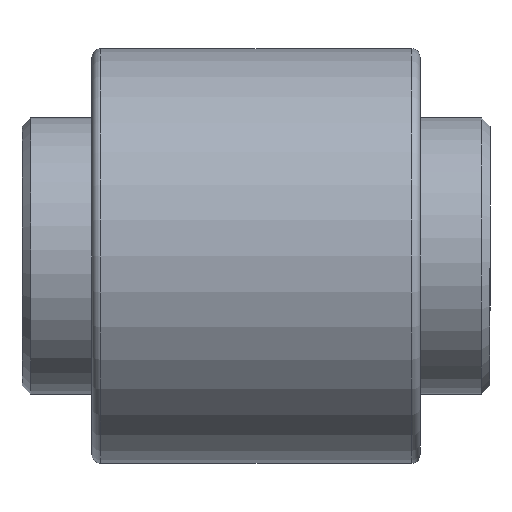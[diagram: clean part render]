
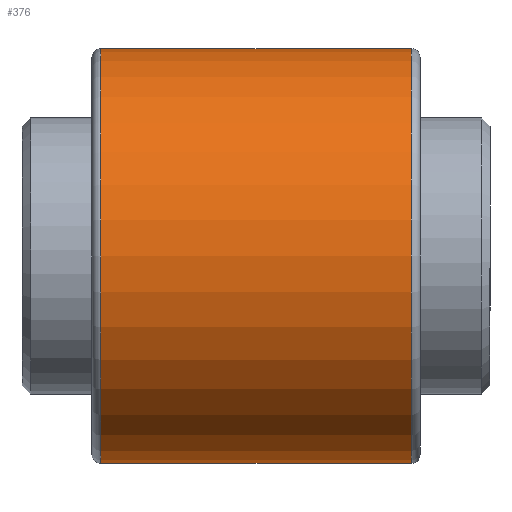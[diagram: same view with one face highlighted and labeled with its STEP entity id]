
A CAD part, front view. The second image highlights one B-rep face of the part: STEP entity #376.
In plain terms, the highlighted cylindrical face has radius 24 mm (diameter 48 mm), a full revolution.
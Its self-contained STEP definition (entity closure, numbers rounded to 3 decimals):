
#54=CYLINDRICAL_SURFACE('',#425,24.);
#71=FACE_BOUND('',#147,.T.);
#101=FACE_OUTER_BOUND('',#146,.T.);
#146=EDGE_LOOP('',(#312));
#147=EDGE_LOOP('',(#313));
#197=CIRCLE('',#424,24.);
#198=CIRCLE('',#426,24.);
#231=VERTEX_POINT('',#652);
#232=VERTEX_POINT('',#655);
#265=EDGE_CURVE('',#231,#231,#197,.T.);
#266=EDGE_CURVE('',#232,#232,#198,.T.);
#312=ORIENTED_EDGE('',*,*,#265,.T.);
#313=ORIENTED_EDGE('',*,*,#266,.F.);
#376=ADVANCED_FACE('',(#101,#71),#54,.T.);
#424=AXIS2_PLACEMENT_3D('',#653,#521,#522);
#425=AXIS2_PLACEMENT_3D('',#654,#523,#524);
#426=AXIS2_PLACEMENT_3D('',#656,#525,#526);
#521=DIRECTION('center_axis',(-1.,0.,0.));
#522=DIRECTION('ref_axis',(0.,0.,1.));
#523=DIRECTION('center_axis',(-1.,0.,0.));
#524=DIRECTION('ref_axis',(0.,-1.,0.));
#525=DIRECTION('center_axis',(-1.,0.,0.));
#526=DIRECTION('ref_axis',(0.,0.,1.));
#652=CARTESIAN_POINT('',(25.12,4.566,0.));
#653=CARTESIAN_POINT('Origin',(25.12,28.566,0.));
#654=CARTESIAN_POINT('Origin',(7.12,28.566,0.));
#655=CARTESIAN_POINT('',(-10.88,4.566,0.));
#656=CARTESIAN_POINT('Origin',(-10.88,28.566,0.));
